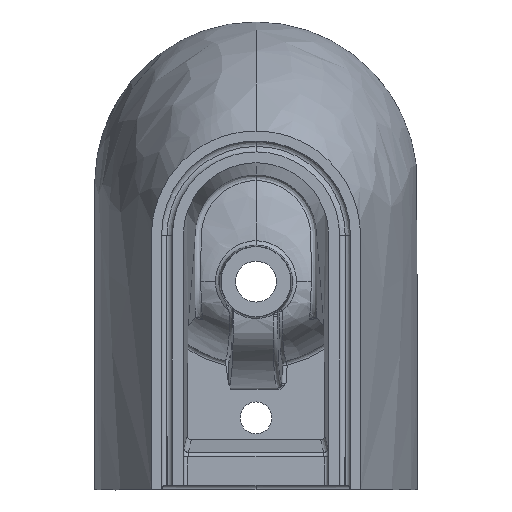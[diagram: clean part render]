
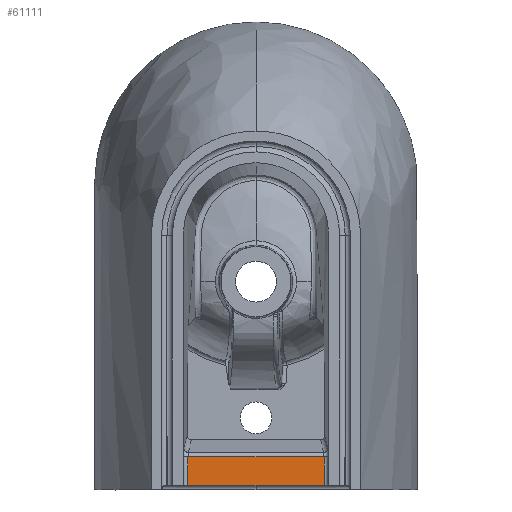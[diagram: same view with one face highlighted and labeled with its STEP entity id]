
A CAD part, front view. The second image highlights one B-rep face of the part: STEP entity #61111.
In plain terms, the highlighted planar face has unit normal (0, -1, 0).
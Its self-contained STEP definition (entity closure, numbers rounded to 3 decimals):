
#2373 = ORIENTED_EDGE ( 'NONE', *, *, #46819, .T. ) ;
#5794 = CARTESIAN_POINT ( 'NONE',  ( -74.83, -411.895, -257.514 ) ) ;
#5805 = CARTESIAN_POINT ( 'NONE',  ( 74.83, -411.895, -257.514 ) ) ;
#6563 = LINE ( 'NONE', #40635, #53427 ) ;
#11061 = CARTESIAN_POINT ( 'NONE',  ( -80., -411.895, 0. ) ) ;
#11084 = B_SPLINE_CURVE_WITH_KNOTS ( 'NONE', 3,
 ( #5794, #22270, #23364, #67943, #34600, #28977, #39119 ),
 .UNSPECIFIED., .F., .F.,
 ( 4, 3, 4 ),
 ( 0., 0.01, 0.031 ),
 .UNSPECIFIED. ) ;
#12475 = LINE ( 'NONE', #30053, #27364 ) ;
#13954 = DIRECTION ( 'NONE',  ( -1., 0., 0. ) ) ;
#14628 = CARTESIAN_POINT ( 'NONE',  ( -74.83, -411.895, -289.012 ) ) ;
#15325 = VERTEX_POINT ( 'NONE', #14628 ) ;
#16727 = VERTEX_POINT ( 'NONE', #26500 ) ;
#17043 = CARTESIAN_POINT ( 'NONE',  ( 74.83, -411.895, -285.678 ) ) ;
#17404 = CARTESIAN_POINT ( 'NONE',  ( 74.83, -411.895, -264.68 ) ) ;
#20796 = EDGE_CURVE ( 'NONE', #16727, #15325, #11084, .T. ) ;
#21324 = B_SPLINE_CURVE_WITH_KNOTS ( 'NONE', 3,
 ( #22653, #17043, #34242, #57098, #68682, #17404, #5805 ),
 .UNSPECIFIED., .F., .F.,
 ( 4, 3, 4 ),
 ( 0., 0.01, 0.031 ),
 .UNSPECIFIED. ) ;
#22270 = CARTESIAN_POINT ( 'NONE',  ( -74.83, -411.895, -260.848 ) ) ;
#22653 = CARTESIAN_POINT ( 'NONE',  ( 74.83, -411.895, -289.012 ) ) ;
#23364 = CARTESIAN_POINT ( 'NONE',  ( -74.83, -411.895, -264.181 ) ) ;
#23408 = EDGE_LOOP ( 'NONE', ( #40130, #51263, #2373, #47745 ) ) ;
#24674 = EDGE_CURVE ( 'NONE', #15325, #57797, #6563, .T. ) ;
#26500 = CARTESIAN_POINT ( 'NONE',  ( -74.83, -411.895, -257.514 ) ) ;
#27364 = VECTOR ( 'NONE', #13954, 1000. ) ;
#28977 = CARTESIAN_POINT ( 'NONE',  ( -74.83, -411.895, -281.846 ) ) ;
#29720 = CARTESIAN_POINT ( 'NONE',  ( 74.83, -411.895, -289.012 ) ) ;
#30053 = CARTESIAN_POINT ( 'NONE',  ( -79.575, -411.895, -257.514 ) ) ;
#34242 = CARTESIAN_POINT ( 'NONE',  ( 74.83, -411.895, -282.345 ) ) ;
#34600 = CARTESIAN_POINT ( 'NONE',  ( -74.83, -411.895, -274.68 ) ) ;
#38960 = CARTESIAN_POINT ( 'NONE',  ( 74.83, -411.895, -257.514 ) ) ;
#39119 = CARTESIAN_POINT ( 'NONE',  ( -74.83, -411.895, -289.012 ) ) ;
#39138 = FACE_OUTER_BOUND ( 'NONE', #23408, .T. ) ;
#40130 = ORIENTED_EDGE ( 'NONE', *, *, #24674, .T. ) ;
#40635 = CARTESIAN_POINT ( 'NONE',  ( -80., -411.895, -289.012 ) ) ;
#41624 = AXIS2_PLACEMENT_3D ( 'NONE', #11061, #61961, #56368 ) ;
#45241 = EDGE_CURVE ( 'NONE', #57797, #61666, #21324, .T. ) ;
#46819 = EDGE_CURVE ( 'NONE', #61666, #16727, #12475, .T. ) ;
#47745 = ORIENTED_EDGE ( 'NONE', *, *, #20796, .T. ) ;
#51263 = ORIENTED_EDGE ( 'NONE', *, *, #45241, .T. ) ;
#53427 = VECTOR ( 'NONE', #63834, 1000. ) ;
#56368 = DIRECTION ( 'NONE',  ( 1., 0., 0. ) ) ;
#57098 = CARTESIAN_POINT ( 'NONE',  ( 74.83, -411.895, -279.012 ) ) ;
#57797 = VERTEX_POINT ( 'NONE', #29720 ) ;
#61111 = ADVANCED_FACE ( 'NONE', ( #39138 ), #73568, .F. ) ;
#61666 = VERTEX_POINT ( 'NONE', #38960 ) ;
#61961 = DIRECTION ( 'NONE',  ( 0., 1., 0. ) ) ;
#63834 = DIRECTION ( 'NONE',  ( 1., 0., 0. ) ) ;
#67943 = CARTESIAN_POINT ( 'NONE',  ( -74.83, -411.895, -267.514 ) ) ;
#68682 = CARTESIAN_POINT ( 'NONE',  ( 74.83, -411.895, -271.846 ) ) ;
#73568 = PLANE ( 'NONE',  #41624 ) ;
